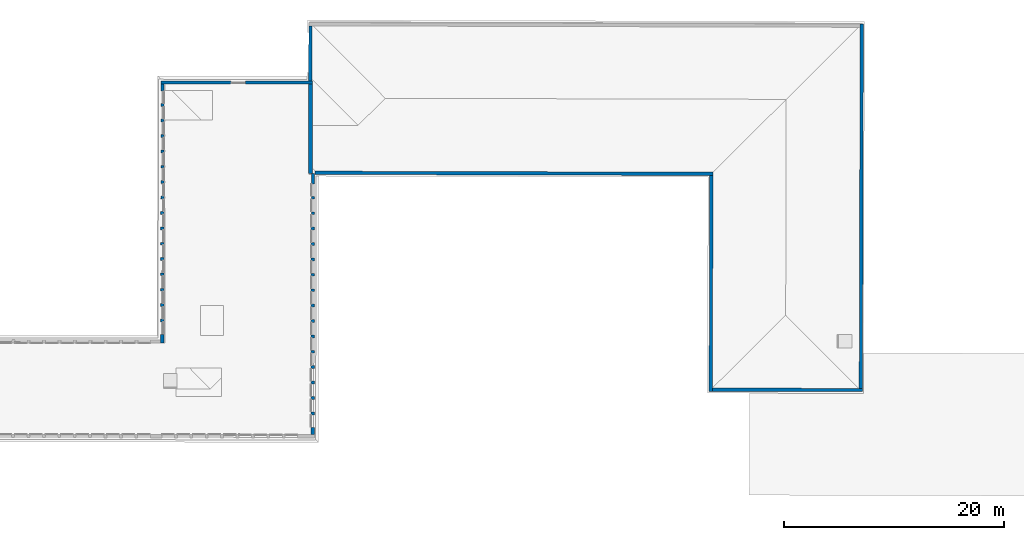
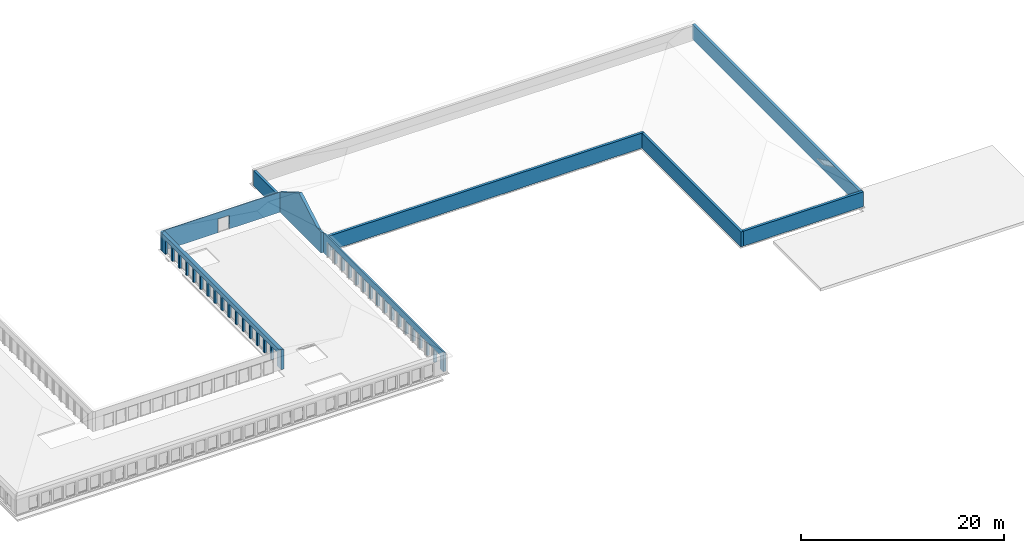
# One storey, part 23 of 26: 9 walls, 33 openings.
"""IFC2X3 building model written with IfcOpenShell, lengths in metres."""

import ifcopenshell
import ifcopenshell.guid

model = None  # the IFC model being written
_history = None  # IfcOwnerHistory: only IFC2X3 demands one
_inside = {}  # id of a spatial element -> (the spatial element, [elements in it])
_under = {}  # id of a project, library or spatial element -> (it, [spatial elements below it])
_declared = {}  # id of a project -> (the project, [libraries it declares])
_typed = {}  # id of a type object -> (the type object, [elements of that type])
_made_of = {}  # id of a material, layer set ... -> (it, [elements and type objects made of it])


def new_model(schema):
    """Start an empty IFC model of exactly this schema.

    Asked for "IFC4X3", IfcOpenShell would pick the latest addendum, in which some entities
    have other attributes; the version numbers below select the first issue.
    IFC2X3 requires an IfcOwnerHistory on every rooted entity: one is made here for all.
    """
    global model, _history
    if schema == "IFC4X3":
        model = ifcopenshell.file(schema_version=(4, 3, 0, 0))
    else:
        model = ifcopenshell.file(schema=schema)
    _inside.clear()
    _under.clear()
    _declared.clear()
    _typed.clear()
    _made_of.clear()
    _history = None
    if model.schema == "IFC2X3":
        org = make("IfcOrganization", Name="unknown")
        user = make(
            "IfcPersonAndOrganization",
            ThePerson=make("IfcPerson", FamilyName="unknown"),
            TheOrganization=org,
        )
        app = make(
            "IfcApplication",
            ApplicationDeveloper=org,
            Version="unknown",
            ApplicationFullName="unknown",
            ApplicationIdentifier="unknown",
        )
        _history = make(
            "IfcOwnerHistory",
            OwningUser=user,
            OwningApplication=app,
            ChangeAction="ADDED",
            CreationDate=0,
        )
    return model


def make(cls, **values):
    """One entity of the class cls with the attributes given. An attribute that is None is left unset."""
    return model.create_entity(
        cls, **{name: value for name, value in values.items() if value is not None}
    )


def entity(cls, *values):
    """Any entity or typed value of the class cls, its attributes in the order of the schema. None: left unset."""
    e = model.create_entity(cls)
    for i, value in enumerate(values):
        if value is not None:
            e[i] = value
    return e


def rooted(cls, **values):
    """An entity with a GlobalId (a new one), such as an element, a storey or a relation."""
    return make(cls, GlobalId=ifcopenshell.guid.new(), OwnerHistory=_history, **values)


def si_unit(unit_type, name, prefix=None):
    """IfcSIUnit, for example si_unit("LENGTHUNIT", "METRE", prefix="MILLI")."""
    return make("IfcSIUnit", UnitType=unit_type, Prefix=prefix, Name=name)


def converted_unit(unit_type, name, factor, base, dimensions=None, offset=None):
    """IfcConversionBasedUnit, such as the inch: factor (a typed value) times the base unit."""
    return make(
        "IfcConversionBasedUnit"
        if offset is None
        else "IfcConversionBasedUnitWithOffset",
        ConversionOffset=offset,
        Dimensions=None
        if dimensions is None
        else entity("IfcDimensionalExponents", *dimensions),
        UnitType=unit_type,
        Name=name,
        ConversionFactor=make(
            "IfcMeasureWithUnit", ValueComponent=factor, UnitComponent=base
        ),
    )


def derived_unit(unit_type, elements):
    """IfcDerivedUnit: a product of units, each with its exponent."""
    return make(
        "IfcDerivedUnit",
        Elements=[
            make("IfcDerivedUnitElement", Unit=unit, Exponent=power)
            for unit, power in elements
        ],
        UnitType=unit_type,
    )


def assignment(units):
    """IfcUnitAssignment: the units of a project."""
    return None if units is None else make("IfcUnitAssignment", Units=units)


def point(xyz):
    """IfcCartesianPoint."""
    return None if xyz is None else make("IfcCartesianPoint", Coordinates=xyz)


def direction(xyz):
    """IfcDirection."""
    return None if xyz is None else make("IfcDirection", DirectionRatios=xyz)


def frame(location, z_axis=None, x_axis=None):
    """IfcAxis2Placement3D, a coordinate frame: its origin and axes. An axis left out is left unset."""
    return make(
        "IfcAxis2Placement3D",
        Location=point(location),
        Axis=direction(z_axis),
        RefDirection=direction(x_axis),
    )


def frame_2d(location, x_axis=None):
    """IfcAxis2Placement2D, a coordinate frame in the plane: its origin and x axis."""
    return make(
        "IfcAxis2Placement2D", Location=point(location), RefDirection=direction(x_axis)
    )


def origin():
    """The frame at (0, 0, 0) with its axes left unset."""
    return frame((0.0, 0.0, 0.0))


def place(relative_to, where):
    """IfcLocalPlacement: puts the frame where relative to a parent placement (None: the world)."""
    return make(
        "IfcLocalPlacement", PlacementRelTo=relative_to, RelativePlacement=where
    )


def context(
    kind, dimensions, precision=None, world=None, true_north=None, identifier=None
):
    """IfcGeometricRepresentationContext, for example the 3D "Model" context."""
    return make(
        "IfcGeometricRepresentationContext",
        ContextIdentifier=identifier,
        ContextType=kind,
        CoordinateSpaceDimension=dimensions,
        Precision=precision,
        WorldCoordinateSystem=world,
        TrueNorth=true_north,
    )


def subcontext(parent, identifier, kind, view, scale=None):
    """IfcGeometricRepresentationSubContext, for example "Body" below "Model"."""
    return make(
        "IfcGeometricRepresentationSubContext",
        ContextIdentifier=identifier,
        ContextType=kind,
        ParentContext=parent,
        TargetScale=scale,
        TargetView=view,
    )


def project(units=None, contexts=None):
    """IfcProject with its units and contexts."""
    return rooted(
        "IfcProject",
        Name="project",
        RepresentationContexts=contexts,
        UnitsInContext=assignment(units),
    )


def spatial(cls, under=None, at=None, **own):
    """A site, building, storey or space (cls), placed at a placement, below another one or the project."""
    s = rooted(cls, ObjectPlacement=at, **own)
    if under is not None:
        _under.setdefault(under.id(), (under, []))[1].append(s)
    return s


def polyline(points):
    """IfcPolyline through the points."""
    return make("IfcPolyline", Points=[point(p) for p in points])


def profile(cls, at=None, kind="AREA", **sizes):
    """A parametric profile (cls). Its sizes go by their IFC names, for example OverallWidth=200.0."""
    return make(cls, ProfileType=kind, Position=at, **sizes)


def rectangle(**sizes):
    """IfcRectangleProfileDef."""
    return profile("IfcRectangleProfileDef", **sizes)


def outline(outer, holes=None, kind="AREA"):
    """IfcArbitraryClosedProfileDef: a profile drawn as a closed curve; with holes, ...WithVoids."""
    if holes is None:
        return make("IfcArbitraryClosedProfileDef", ProfileType=kind, OuterCurve=outer)
    return make(
        "IfcArbitraryProfileDefWithVoids",
        ProfileType=kind,
        OuterCurve=outer,
        InnerCurves=holes,
    )


def extrude(swept, where, along, depth):
    """IfcExtrudedAreaSolid: the profile swept, set in the frame where, extruded along a direction by depth."""
    return make(
        "IfcExtrudedAreaSolid",
        SweptArea=swept,
        Position=where,
        ExtrudedDirection=direction(along),
        Depth=depth,
    )


def clip(a, b, op="DIFFERENCE"):
    """IfcBooleanClippingResult: the solid a cut by the half space b."""
    return make(
        "IfcBooleanClippingResult", Operator=op, FirstOperand=a, SecondOperand=b
    )


def bounded_halfspace(plane, agree, where, boundary):
    """IfcPolygonalBoundedHalfSpace: a half space limited to a polygon's prism."""
    return make(
        "IfcPolygonalBoundedHalfSpace",
        BaseSurface=make("IfcPlane", Position=plane),
        AgreementFlag=agree,
        Position=where,
        PolygonalBoundary=boundary,
    )


def shape(context_of_items, identifier, shape_type, items):
    """IfcShapeRepresentation: the items that make up one representation, for example the "Body"."""
    return make(
        "IfcShapeRepresentation",
        ContextOfItems=context_of_items,
        RepresentationIdentifier=identifier,
        RepresentationType=shape_type,
        Items=items,
    )


def material(Name=None, Category=None):
    """IfcMaterial."""
    return make("IfcMaterial", Name=Name, Category=Category)


def layer(
    of_material, thickness, ventilated=None, Name=None, Category=None, Priority=None
):
    """IfcMaterialLayer: one layer of a wall or slab, of a material (None: an air gap)."""
    return make(
        "IfcMaterialLayer",
        Material=of_material,
        LayerThickness=thickness,
        IsVentilated=ventilated,
        Name=Name,
        Category=Category,
        Priority=Priority,
    )


def layer_set(layers, Name=None):
    """IfcMaterialLayerSet."""
    return make("IfcMaterialLayerSet", MaterialLayers=layers, LayerSetName=Name)


def layer_usage(for_layer_set, set_direction, sense, offset, extent=None):
    """IfcMaterialLayerSetUsage: how a layer set lies in its element."""
    return make(
        "IfcMaterialLayerSetUsage",
        ForLayerSet=for_layer_set,
        LayerSetDirection=set_direction,
        DirectionSense=sense,
        OffsetFromReferenceLine=offset,
        ReferenceExtent=extent,
    )


def made_of(thing, what):
    """Note that an element or type object is made of a material, layer set ...; save() writes the relation."""
    if what is not None:
        _made_of.setdefault(what.id(), (what, []))[1].append(thing)
    return thing


def type_object(cls, material=None, **own):
    """A type object (cls), such as IfcWallType, which elements share."""
    return made_of(rooted(cls, **own), material)


def element(
    cls,
    number,
    at=None,
    inside=None,
    cuts=None,
    type_object=None,
    material=None,
    context=None,
    identifier="Body",
    shape_type=None,
    held_by="IfcProductDefinitionShape",
    body=None,
    shapes=None,
    **own,
):
    """One element of the class cls, such as IfcWall. Its Tag is "e" and its number.

    at: its placement. inside: the storey or other place that contains it. cuts: it is an
    opening in that element (IfcRelVoidsElement). A single representation is given by context,
    identifier, shape_type and body (its items); several are given by shapes. held_by: the class
    of the entity that holds the representations. save() writes the other relations.
    """
    e = rooted(cls, Tag="e%d" % number, ObjectPlacement=at, **own)
    if body is not None:
        shapes = [shape(context, identifier, shape_type, body)]
    if shapes is not None:
        e.Representation = make(held_by, Representations=shapes)
    if inside is not None:
        _inside.setdefault(inside.id(), (inside, []))[1].append(e)
    if cuts is not None:
        rooted(
            "IfcRelVoidsElement", RelatingBuildingElement=cuts, RelatedOpeningElement=e
        )
    if type_object is not None:
        _typed.setdefault(type_object.id(), (type_object, []))[1].append(e)
    return made_of(e, material)


def aggregate(whole, parts):
    """IfcRelAggregates: a whole, such as a stair, and the parts it consists of."""
    return rooted("IfcRelAggregates", RelatingObject=whole, RelatedObjects=parts)


def save(model, path):
    """Write the relations noted so far, then the file.

    IfcRelAggregates (storeys below a building ...), IfcRelContainedInSpatialStructure (elements
    in a storey), IfcRelDefinesByType, IfcRelAssociatesMaterial and IfcRelDeclares: one each for
    every whole, place, type object, material and project.
    """
    for whole, parts in _under.values():
        aggregate(whole, parts)
    for where, things in _inside.values():
        rooted(
            "IfcRelContainedInSpatialStructure",
            RelatedElements=things,
            RelatingStructure=where,
        )
    for kind, things in _typed.values():
        rooted("IfcRelDefinesByType", RelatedObjects=things, RelatingType=kind)
    for what, things in _made_of.values():
        rooted("IfcRelAssociatesMaterial", RelatedObjects=things, RelatingMaterial=what)
    for by, libraries in _declared.values():
        rooted("IfcRelDeclares", RelatingContext=by, RelatedDefinitions=libraries)
    model.write(path)


model = new_model("IFC2X3")

# Units and contexts
model_context = context("Model", 3, precision=1e-05, world=origin(), true_north=direction((6.123233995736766e-17, 1.0)))
body_context = subcontext(model_context, "Body", "Model", "MODEL_VIEW")
ifc_project = project(units=[si_unit("LENGTHUNIT", "METRE"), si_unit("AREAUNIT", "SQUARE_METRE"), converted_unit("PLANEANGLEUNIT", "DEGREE", entity("IfcPlaneAngleMeasure", 0.017453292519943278), si_unit("PLANEANGLEUNIT", "RADIAN"), dimensions=[0, 0, 0, 0, 0, 0, 0]), derived_unit("THERMALTRANSMITTANCEUNIT", [(si_unit("MASSUNIT", "GRAM", prefix="KILO"), 1), (si_unit("THERMODYNAMICTEMPERATUREUNIT", "KELVIN"), -1), (si_unit("TIMEUNIT", "SECOND"), -3)])], contexts=[model_context])

# Site, building, storey
site_placement = place(None, frame((1253.6752467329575, 2072.143113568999, 91.49999999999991), z_axis=(0.0, 0.0, 1.0), x_axis=(0.7237211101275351, 0.6900925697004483, 0.0)))
site = spatial("IfcSite", under=ifc_project, at=site_placement, Name="Surface", CompositionType="ELEMENT")
building_placement = place(site_placement, origin())
building = spatial("IfcBuilding", under=site, at=building_placement, CompositionType="ELEMENT")
storey_placement = place(building_placement, frame((0.0, 0.0, 7.0)))
storey = spatial("IfcBuildingStorey", under=building, at=storey_placement, Name="2-R+2", CompositionType="ELEMENT", Elevation=6.999999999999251)

# Wall
ifc_material = material(Name="OMD_Béton blanc")
ifc_layer_1 = layer(ifc_material, 0.35)
ifc_layer_set_1 = layer_set([ifc_layer_1], Name="Mur de base:MUR 35")
ifc_layer_usage_1 = layer_usage(ifc_layer_set_1, "AXIS2", "NEGATIVE", 0.175)
wall_type_1 = type_object("IfcWallType", Name="Mur de base:MUR 35", PredefinedType="STANDARD", material=ifc_layer_set_1)
wall_1_placement = place(storey_placement, frame((201.2558567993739, -6.15626207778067, 0.9000000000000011), z_axis=(0.0, 0.0, 1.0), x_axis=(-0.6909838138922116, -0.7228702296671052, 0.0)))
element("IfcWallStandardCase", 1, at=wall_1_placement, inside=storey, type_object=wall_type_1, material=ifc_layer_usage_1, Name="Mur de base:MUR 35", ObjectType="Mur de base:MUR 35", context=body_context, shape_type="Clipping", body=[
    clip(clip(clip(extrude(rectangle(XDim=8.120000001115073, YDim=0.35000000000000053, at=frame_2d((4.060000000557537, -4.440892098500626e-16), x_axis=(-1.0, 0.0))), origin(), (0.0, 0.0, 1.0), 4.597880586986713), bounded_halfspace(frame((7.279929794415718, -0.17499999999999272, 2.5487266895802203), z_axis=(0.0, 0.5024164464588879, 0.8646257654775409), x_axis=(-1.0, 0.0, 0.0)), False, frame((7.279929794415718, -0.17499999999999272, 2.5487266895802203)), polyline([(0.0, 0.0), (0.8400702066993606, 0.0), (0.8400702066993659, 0.24470867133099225), (0.8400702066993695, 0.3499999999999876), (0.3527415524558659, 0.3499999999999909), (0.0, 0.0)]))), bounded_halfspace(frame((0.0, -0.17499999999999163, 2.4297746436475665), z_axis=(-0.5024164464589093, 0.0, 0.8646257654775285), x_axis=(0.0, -1.0, 0.0)), False, frame((0.0, -0.17499999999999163, 2.4297746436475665)), polyline([(0.0, 0.0), (3.730928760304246, 0.0), (3.7311681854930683, 0.3500000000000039), (0.0, 0.3499999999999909), (0.0, 0.0)]))), bounded_halfspace(frame((3.7309287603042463, -0.17500000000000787, 4.5977414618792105), z_axis=(0.4999995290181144, -0.0006862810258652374, 0.8660254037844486), x_axis=(0.0013725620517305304, 0.9999990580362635, 0.0)), False, frame((3.7309287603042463, -0.17500000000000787, 4.5977414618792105)), polyline([(0.0, 0.0), (3.549001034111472, 0.0), (3.901742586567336, 0.3500000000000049), (0.000239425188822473, 0.35000000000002), (0.0, 0.0)]))),
])

# Wall, opening
ifc_layer_2 = layer(ifc_material, 0.29999999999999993)
ifc_layer_set_2 = layer_set([ifc_layer_2], Name="Mur de base:MUR 30")
ifc_layer_usage_2 = layer_usage(ifc_layer_set_2, "AXIS2", "NEGATIVE", 0.14999999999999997)
wall_type_2 = type_object("IfcWallType", Name="Mur de base:MUR 30", PredefinedType="STANDARD", material=ifc_layer_set_2)
wall_2_placement = place(storey_placement, frame((191.51843010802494, 3.3591446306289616, 0.9000000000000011), z_axis=(0.0, 0.0, 1.0), x_axis=(0.7228702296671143, -0.6909838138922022, 0.0)))
wall_2 = element("IfcWallStandardCase", 2, at=wall_2_placement, inside=storey, type_object=wall_type_2, material=ifc_layer_usage_2, Name="Mur de base:MUR 30", ObjectType="Mur de base:MUR 30", context=body_context, shape_type="Clipping", body=[
    clip(clip(extrude(rectangle(XDim=13.788887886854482, YDim=0.29999999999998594, at=frame_2d((6.894443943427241, -4.3021142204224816e-15), x_axis=(-1.0, 0.0))), origin(), (0.0, 0.0, 1.0), 2.4297746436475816), bounded_halfspace(frame((0.0, 0.1500000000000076, 2.183631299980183), z_axis=(-0.5024164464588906, 0.0, 0.8646257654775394), x_axis=(0.0, -1.0, 0.0)), False, frame((0.0, 0.1500000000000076, 2.183631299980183)), polyline([(0.0, 0.0), (0.0, -0.3000000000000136), (0.29999999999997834, -0.300000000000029), (0.4235965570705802, -0.30000000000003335), (0.12359655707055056, 0.0), (0.0, 0.0)]))), bounded_halfspace(frame((13.788887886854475, -0.1500000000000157, 2.4297746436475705), z_axis=(0.0, 0.5024164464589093, 0.8646257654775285), x_axis=(-1.0, 0.0, 0.0)), False, frame((13.788887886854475, -0.1500000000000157, 2.4297746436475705)), polyline([(0.0, 0.0), (0.0, 0.3000000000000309), (-13.665291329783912, 0.3000000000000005), (-13.365291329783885, 0.0), (-0.3500000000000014, 0.0), (0.0, 0.0)]))),
])
opening_1_placement = place(wall_2_placement, frame((7.006940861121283, -0.9515872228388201, 0.0)))
element("IfcOpeningElement", 3, at=opening_1_placement, cuts=wall_2, Name="Mur de base:MUR 30", ObjectType="Opening", context=body_context, shape_type="SweptSolid", body=[
    extrude(rectangle(XDim=1.6499999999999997, YDim=1.2996959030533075, at=frame_2d((-1.8485213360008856e-14, 0.0), x_axis=(0.0, 1.0))), frame((0.02929692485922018, 0.649187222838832, 0.8249999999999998), z_axis=(0.0, 1.0, 0.0), x_axis=(-1.0, 0.0, 0.0)), (0.0, 0.0, 1.0), 0.6048000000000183),
])

# Wall, openings
ifc_layer_usage_3 = layer_usage(ifc_layer_set_2, "AXIS2", "NEGATIVE", 0.14999999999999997)
wall_3_placement = place(storey_placement, frame((175.24363441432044, -13.883756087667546, 0.9000000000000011), z_axis=(0.0, 0.0, 1.0), x_axis=(0.6909838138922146, 0.7228702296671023, 0.0)))
wall_3 = element("IfcWallStandardCase", 4, at=wall_3_placement, inside=storey, type_object=wall_type_2, material=ifc_layer_usage_3, Name="Mur de base:MUR 30", ObjectType="Mur de base:MUR 30", context=body_context, shape_type="Clipping", body=[
    clip(clip(extrude(rectangle(XDim=23.560000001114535, YDim=0.2999999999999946, at=frame_2d((11.780000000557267, 6.106226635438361e-16), x_axis=(-1.0, 0.0))), origin(), (0.0, 0.0, 1.0), 2.406531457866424), bounded_halfspace(frame((0.0, 0.1499999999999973, 2.406531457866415), z_axis=(0.502416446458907, 0.0, 0.8646257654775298), x_axis=(0.0, 1.0, 0.0)), False, frame((0.0, 0.1499999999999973, 2.406531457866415)), polyline([(0.0, 0.0), (0.0, -0.2999999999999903), (0.08359655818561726, -0.29999999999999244), (0.38359655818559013, 0.0), (0.2999999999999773, 0.0), (0.0, 0.0)]))), bounded_halfspace(frame((23.56000000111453, -0.1500000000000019, 2.3579551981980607), z_axis=(0.0, 0.5024164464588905, 0.8646257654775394), x_axis=(-1.0, 0.0, 0.0)), False, frame((23.56000000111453, -0.1500000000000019, 2.3579551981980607)), polyline([(0.0, 0.0), (0.0, 0.29999999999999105), (-23.176403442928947, 0.29999999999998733), (-23.476403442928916, 0.0), (0.0, 0.0)]))),
])
opening_2_placement = place(wall_3_placement, frame((21.472558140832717, 0.013633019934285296, 0.0)))
element("IfcOpeningElement", 5, at=opening_2_placement, cuts=wall_3, Name="Mur de base:MUR 30", ObjectType="Opening", context=body_context, shape_type="SweptSolid", body=[
    extrude(rectangle(XDim=1.6499999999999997, YDim=1.1399999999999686, at=frame_2d((0.0, 1.815214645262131e-14), x_axis=(1.0, 0.0))), frame((0.8720925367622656, -0.31603301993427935, 0.8249999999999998), z_axis=(0.0, 1.0, 0.0), x_axis=(0.0, 0.0, 1.0)), (0.0, 0.0, 1.0), 0.6048000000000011),
])
opening_3_placement = place(wall_3_placement, frame((20.07255945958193, 0.01363301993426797, 0.0)))
element("IfcOpeningElement", 6, at=opening_3_placement, cuts=wall_3, Name="Mur de base:MUR 30", ObjectType="Opening", context=body_context, shape_type="SweptSolid", body=[
    extrude(rectangle(XDim=1.6499999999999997, YDim=1.1399999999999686, at=frame_2d((0.0, -1.8207657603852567e-14), x_axis=(1.0, 0.0))), frame((0.8720925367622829, -0.31603301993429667, 0.8249999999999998), z_axis=(0.0, 1.0, 0.0), x_axis=(0.0, 0.0, 1.0)), (0.0, 0.0, 1.0), 0.6047999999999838),
])
opening_4_placement = place(wall_3_placement, frame((18.672560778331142, 0.013633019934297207, 0.0)))
element("IfcOpeningElement", 7, at=opening_4_placement, cuts=wall_3, Name="Mur de base:MUR 30", ObjectType="Opening", context=body_context, shape_type="SweptSolid", body=[
    extrude(rectangle(XDim=1.6499999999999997, YDim=1.1399999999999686, at=frame_2d((0.0, 1.8207657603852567e-14), x_axis=(1.0, 0.0))), frame((0.8720925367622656, -0.31603301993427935, 0.8249999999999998), z_axis=(0.0, 1.0, 0.0), x_axis=(0.0, 0.0, 1.0)), (0.0, 0.0, 1.0), 0.6048000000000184),
])
opening_5_placement = place(wall_3_placement, frame((17.27256209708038, 0.013633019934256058, 0.0)))
element("IfcOpeningElement", 8, at=opening_5_placement, cuts=wall_3, Name="Mur de base:MUR 30", ObjectType="Opening", context=body_context, shape_type="SweptSolid", body=[
    extrude(rectangle(XDim=1.6499999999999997, YDim=1.1399999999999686, at=frame_2d((0.0, -1.8207657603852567e-14), x_axis=(1.0, 0.0))), frame((0.8720925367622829, -0.31603301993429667, 0.8249999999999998), z_axis=(0.0, 1.0, 0.0), x_axis=(0.0, 0.0, 1.0)), (0.0, 0.0, 1.0), 0.6047999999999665),
])
opening_6_placement = place(wall_3_placement, frame((15.872563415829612, 0.013633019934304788, 0.0)))
element("IfcOpeningElement", 9, at=opening_6_placement, cuts=wall_3, Name="Mur de base:MUR 30", ObjectType="Opening", context=body_context, shape_type="SweptSolid", body=[
    extrude(rectangle(XDim=1.6499999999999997, YDim=1.1399999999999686, at=frame_2d((0.0, 1.8207657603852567e-14), x_axis=(1.0, 0.0))), frame((0.8720925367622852, -0.3160330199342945, 0.8249999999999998), z_axis=(0.0, 1.0, 0.0), x_axis=(0.0, 0.0, 1.0)), (0.0, 0.0, 1.0), 0.6047999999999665),
])
opening_7_placement = place(wall_3_placement, frame((14.47256473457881, 0.013633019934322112, 0.0)))
element("IfcOpeningElement", 10, at=opening_7_placement, cuts=wall_3, Name="Mur de base:MUR 30", ObjectType="Opening", context=body_context, shape_type="SweptSolid", body=[
    extrude(rectangle(XDim=1.6499999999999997, YDim=1.1399999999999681, at=frame_2d((0.0, -1.8263168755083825e-14), x_axis=(1.0, 0.0))), frame((0.8720925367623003, -0.31603301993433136, 0.8249999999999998), z_axis=(0.0, 1.0, 0.0), x_axis=(0.0, 0.0, 1.0)), (0.0, 0.0, 1.0), 0.6047999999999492),
])
opening_8_placement = place(wall_3_placement, frame((13.072566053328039, 0.013633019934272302, 0.0)))
element("IfcOpeningElement", 11, at=opening_8_placement, cuts=wall_3, Name="Mur de base:MUR 30", ObjectType="Opening", context=body_context, shape_type="SweptSolid", body=[
    extrude(rectangle(XDim=1.6499999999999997, YDim=1.139999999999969, at=frame_2d((0.0, 1.8207657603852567e-14), x_axis=(1.0, 0.0))), frame((0.872092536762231, -0.3160330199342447, 0.8249999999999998), z_axis=(0.0, 1.0, 0.0), x_axis=(0.0, 0.0, 1.0)), (0.0, 0.0, 1.0), 0.6048000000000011),
])
opening_9_placement = place(wall_3_placement, frame((11.672567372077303, 0.013633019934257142, 0.0)))
element("IfcOpeningElement", 12, at=opening_9_placement, cuts=wall_3, Name="Mur de base:MUR 30", ObjectType="Opening", context=body_context, shape_type="SweptSolid", body=[
    extrude(rectangle(XDim=1.6499999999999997, YDim=1.139999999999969, at=frame_2d((0.0, 1.8207657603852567e-14), x_axis=(1.0, 0.0))), frame((0.872092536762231, -0.3160330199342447, 0.8249999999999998), z_axis=(0.0, 1.0, 0.0), x_axis=(0.0, 0.0, 1.0)), (0.0, 0.0, 1.0), 0.6048000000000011),
])
opening_10_placement = place(wall_3_placement, frame((10.272568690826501, 0.013633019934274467, 0.0)))
element("IfcOpeningElement", 13, at=opening_10_placement, cuts=wall_3, Name="Mur de base:MUR 30", ObjectType="Opening", context=body_context, shape_type="SweptSolid", body=[
    extrude(rectangle(XDim=1.6499999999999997, YDim=1.1399999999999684, at=frame_2d((0.0, 1.865174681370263e-14), x_axis=(1.0, 0.0))), frame((0.8720925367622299, -0.3160330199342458, 0.8249999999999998), z_axis=(0.0, 1.0, 0.0), x_axis=(0.0, 0.0, 1.0)), (0.0, 0.0, 1.0), 0.6048000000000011),
])
opening_11_placement = place(wall_3_placement, frame((8.872570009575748, 0.013633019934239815, 0.0)))
element("IfcOpeningElement", 14, at=opening_11_placement, cuts=wall_3, Name="Mur de base:MUR 30", ObjectType="Opening", context=body_context, shape_type="SweptSolid", body=[
    extrude(rectangle(XDim=1.6499999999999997, YDim=1.139999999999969, at=frame_2d((0.0, 1.8207657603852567e-14), x_axis=(1.0, 0.0))), frame((0.8720925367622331, -0.31603301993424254, 0.8249999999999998), z_axis=(0.0, 1.0, 0.0), x_axis=(0.0, 0.0, 1.0)), (0.0, 0.0, 1.0), 0.6047999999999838),
])
opening_12_placement = place(wall_3_placement, frame((7.492571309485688, 0.013633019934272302, 0.0)))
element("IfcOpeningElement", 15, at=opening_12_placement, cuts=wall_3, Name="Mur de base:MUR 30", ObjectType="Opening", context=body_context, shape_type="SweptSolid", body=[
    extrude(rectangle(XDim=1.6499999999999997, YDim=1.1399999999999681, at=frame_2d((0.0, 1.7819079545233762e-14), x_axis=(1.0, 0.0))), frame((0.872092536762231, -0.3160330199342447, 0.8249999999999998), z_axis=(0.0, 1.0, 0.0), x_axis=(0.0, 0.0, 1.0)), (0.0, 0.0, 1.0), 0.6047999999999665),
])
opening_13_placement = place(wall_3_placement, frame((6.09257262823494, 0.013633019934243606, 0.0)))
element("IfcOpeningElement", 16, at=opening_13_placement, cuts=wall_3, Name="Mur de base:MUR 30", ObjectType="Opening", context=body_context, shape_type="SweptSolid", body=[
    extrude(rectangle(XDim=1.6499999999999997, YDim=1.1399999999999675, at=frame_2d((0.0, 1.7430501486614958e-14), x_axis=(1.0, 0.0))), frame((0.872092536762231, -0.3160330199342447, 0.8249999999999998), z_axis=(0.0, 1.0, 0.0), x_axis=(0.0, 0.0, 1.0)), (0.0, 0.0, 1.0), 0.6047999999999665),
])
opening_14_placement = place(wall_3_placement, frame((4.692573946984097, 0.013633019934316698, 0.0)))
element("IfcOpeningElement", 17, at=opening_14_placement, cuts=wall_3, Name="Mur de base:MUR 30", ObjectType="Opening", context=body_context, shape_type="SweptSolid", body=[
    extrude(rectangle(XDim=1.6499999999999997, YDim=1.139999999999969, at=frame_2d((0.0, 1.8207657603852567e-14), x_axis=(1.0, 0.0))), frame((0.8720925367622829, -0.31603301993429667, 0.8249999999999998), z_axis=(0.0, 1.0, 0.0), x_axis=(0.0, 0.0, 1.0)), (0.0, 0.0, 1.0), 0.6047999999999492),
])
opening_15_placement = place(wall_3_placement, frame((3.2925752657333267, 0.01363301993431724, 0.0)))
element("IfcOpeningElement", 18, at=opening_15_placement, cuts=wall_3, Name="Mur de base:MUR 30", ObjectType="Opening", context=body_context, shape_type="SweptSolid", body=[
    extrude(rectangle(XDim=1.6499999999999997, YDim=1.139999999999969, at=frame_2d((0.0, 1.8207657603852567e-14), x_axis=(1.0, 0.0))), frame((0.8720925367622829, -0.31603301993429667, 0.8249999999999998), z_axis=(0.0, 1.0, 0.0), x_axis=(0.0, 0.0, 1.0)), (0.0, 0.0, 1.0), 0.6047999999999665),
])
opening_16_placement = place(wall_3_placement, frame((1.8925765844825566, 0.013633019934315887, 0.0)))
element("IfcOpeningElement", 19, at=opening_16_placement, cuts=wall_3, Name="Mur de base:MUR 30", ObjectType="Opening", context=body_context, shape_type="SweptSolid", body=[
    extrude(rectangle(XDim=1.6499999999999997, YDim=1.139999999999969, at=frame_2d((0.0, 1.8207657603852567e-14), x_axis=(1.0, 0.0))), frame((0.8720925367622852, -0.3160330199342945, 0.8249999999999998), z_axis=(0.0, 1.0, 0.0), x_axis=(0.0, 0.0, 1.0)), (0.0, 0.0, 1.0), 0.6047999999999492),
])
opening_17_placement = place(wall_3_placement, frame((0.49257790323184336, 0.013633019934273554, 0.0)))
element("IfcOpeningElement", 20, at=opening_17_placement, cuts=wall_3, Name="Mur de base:MUR 30", ObjectType="Opening", context=body_context, shape_type="SweptSolid", body=[
    extrude(rectangle(XDim=1.6499999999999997, YDim=1.139999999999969, at=frame_2d((0.0, 1.9761969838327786e-14), x_axis=(1.0, 0.0))), frame((0.8720925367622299, -0.3160330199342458, 0.8249999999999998), z_axis=(0.0, 1.0, 0.0), x_axis=(0.0, 0.0, 1.0)), (0.0, 0.0, 1.0), 0.6047999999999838),
])

ifc_layer_usage_4 = layer_usage(ifc_layer_set_2, "AXIS2", "NEGATIVE", 0.14999999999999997)
wall_4_placement = place(storey_placement, frame((195.80388908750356, -12.177783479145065, 0.899999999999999), z_axis=(0.0, 0.0, 1.0), x_axis=(-0.6909838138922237, -0.7228702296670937, 0.0)))
wall_4 = element("IfcWallStandardCase", 21, at=wall_4_placement, inside=storey, type_object=wall_type_2, material=ifc_layer_usage_4, Name="Mur de base:MUR 30", ObjectType="Mur de base:MUR 30", context=body_context, shape_type="Clipping", body=[
    clip(extrude(rectangle(XDim=23.74000000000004, YDim=0.2999999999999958, at=frame_2d((11.870000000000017, 2.636779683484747e-16), x_axis=(1.0, 0.0))), origin(), (0.0, 0.0, 1.0), 2.4065314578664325), bounded_halfspace(frame((0.0, -0.14999999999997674, 2.406531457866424), z_axis=(0.0, 0.5024164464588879, 0.8646257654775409), x_axis=(-1.0, 0.0, 0.0)), False, frame((0.0, -0.14999999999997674, 2.406531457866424)), polyline([(0.0, 0.0), (23.740000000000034, 0.0), (23.74000000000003, 0.2999999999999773), (0.0, 0.2999999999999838), (0.0, 0.10529132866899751), (0.0, 0.0)]))),
])
opening_18_placement = place(wall_4_placement, frame((2.3766354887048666, -0.013633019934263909, 0.0)))
element("IfcOpeningElement", 22, at=opening_18_placement, cuts=wall_4, Name="Mur de base:MUR 30", ObjectType="Opening", context=body_context, shape_type="SweptSolid", body=[
    extrude(rectangle(XDim=1.6499999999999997, YDim=1.139999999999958, at=frame_2d((-1.7486012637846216e-14, 0.0), x_axis=(0.0, 1.0))), frame((-0.8720925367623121, -0.2887669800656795, 0.8249999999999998), z_axis=(0.0, 1.0, 0.0), x_axis=(-1.0, 0.0, 0.0)), (0.0, 0.0, 1.0), 0.6047999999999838),
])
opening_19_placement = place(wall_4_placement, frame((3.776634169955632, -0.013633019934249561, 0.0)))
element("IfcOpeningElement", 23, at=opening_19_placement, cuts=wall_4, Name="Mur de base:MUR 30", ObjectType="Opening", context=body_context, shape_type="SweptSolid", body=[
    extrude(rectangle(XDim=1.6499999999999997, YDim=1.139999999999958, at=frame_2d((1.7486012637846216e-14, 0.0), x_axis=(0.0, 1.0))), frame((-0.8720925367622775, -0.28876698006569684, 0.8249999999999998), z_axis=(0.0, 1.0, 0.0), x_axis=(-1.0, 0.0, 0.0)), (0.0, 0.0, 1.0), 0.6047999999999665),
])
opening_20_placement = place(wall_4_placement, frame((5.176632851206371, -0.013633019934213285, 0.0)))
element("IfcOpeningElement", 24, at=opening_20_placement, cuts=wall_4, Name="Mur de base:MUR 30", ObjectType="Opening", context=body_context, shape_type="SweptSolid", body=[
    extrude(rectangle(XDim=1.6499999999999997, YDim=1.139999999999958, at=frame_2d((1.7486012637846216e-14, 0.0), x_axis=(0.0, 1.0))), frame((-0.8720925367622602, -0.2887669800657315, 0.8249999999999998), z_axis=(0.0, 1.0, 0.0), x_axis=(-1.0, 0.0, 0.0)), (0.0, 0.0, 1.0), 0.6048000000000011),
])
opening_21_placement = place(wall_4_placement, frame((6.576631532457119, -0.013633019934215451, 0.0)))
element("IfcOpeningElement", 25, at=opening_21_placement, cuts=wall_4, Name="Mur de base:MUR 30", ObjectType="Opening", context=body_context, shape_type="SweptSolid", body=[
    extrude(rectangle(XDim=1.6499999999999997, YDim=1.139999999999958, at=frame_2d((1.7486012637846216e-14, 0.0), x_axis=(0.0, 1.0))), frame((-0.8720925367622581, -0.2887669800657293, 0.8249999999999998), z_axis=(0.0, 1.0, 0.0), x_axis=(-1.0, 0.0, 0.0)), (0.0, 0.0, 1.0), 0.6047999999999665),
])
opening_22_placement = place(wall_4_placement, frame((7.976657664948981, -0.01363301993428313, 0.0)))
element("IfcOpeningElement", 26, at=opening_22_placement, cuts=wall_4, Name="Mur de base:MUR 30", ObjectType="Opening", context=body_context, shape_type="SweptSolid", body=[
    extrude(rectangle(XDim=1.6499999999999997, YDim=1.1399999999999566, at=frame_2d((1.9761969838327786e-14, 0.0), x_axis=(0.0, 1.0))), frame((-0.8720925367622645, -0.28876698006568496, 0.8249999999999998), z_axis=(0.0, 1.0, 0.0), x_axis=(-1.0, 0.0, 0.0)), (0.0, 0.0, 1.0), 0.6047999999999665),
])
opening_23_placement = place(wall_4_placement, frame((9.376656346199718, -0.013633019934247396, 0.0)))
element("IfcOpeningElement", 27, at=opening_23_placement, cuts=wall_4, Name="Mur de base:MUR 30", ObjectType="Opening", context=body_context, shape_type="SweptSolid", body=[
    extrude(rectangle(XDim=1.6499999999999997, YDim=1.139999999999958, at=frame_2d((1.7486012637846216e-14, 0.0), x_axis=(0.0, 1.0))), frame((-0.8720925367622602, -0.2887669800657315, 0.8249999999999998), z_axis=(0.0, 1.0, 0.0), x_axis=(-1.0, 0.0, 0.0)), (0.0, 0.0, 1.0), 0.6048000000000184),
])
opening_24_placement = place(wall_4_placement, frame((10.77665502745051, -0.013633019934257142, 0.0)))
element("IfcOpeningElement", 28, at=opening_24_placement, cuts=wall_4, Name="Mur de base:MUR 30", ObjectType="Opening", context=body_context, shape_type="SweptSolid", body=[
    extrude(rectangle(XDim=1.6499999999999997, YDim=1.1399999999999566, at=frame_2d((-1.8263168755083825e-14, 0.0), x_axis=(0.0, 1.0))), frame((-0.8720925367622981, -0.2887669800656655, 0.8249999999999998), z_axis=(0.0, 1.0, 0.0), x_axis=(-1.0, 0.0, 0.0)), (0.0, 0.0, 1.0), 0.6047999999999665),
])
opening_25_placement = place(wall_4_placement, frame((12.176653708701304, -0.013633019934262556, 0.0)))
element("IfcOpeningElement", 29, at=opening_25_placement, cuts=wall_4, Name="Mur de base:MUR 30", ObjectType="Opening", context=body_context, shape_type="SweptSolid", body=[
    extrude(rectangle(XDim=1.6499999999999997, YDim=1.1399999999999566, at=frame_2d((-1.6653345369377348e-14, 0.0), x_axis=(0.0, 1.0))), frame((-0.8720925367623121, -0.2887669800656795, 0.8249999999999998), z_axis=(0.0, 1.0, 0.0), x_axis=(-1.0, 0.0, 0.0)), (0.0, 0.0, 1.0), 0.6047999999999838),
])
opening_26_placement = place(wall_4_placement, frame((13.576652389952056, -0.013633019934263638, 0.0)))
element("IfcOpeningElement", 30, at=opening_26_placement, cuts=wall_4, Name="Mur de base:MUR 30", ObjectType="Opening", context=body_context, shape_type="SweptSolid", body=[
    extrude(rectangle(XDim=1.6499999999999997, YDim=1.1399999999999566, at=frame_2d((1.9761969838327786e-14, 0.0), x_axis=(0.0, 1.0))), frame((-0.8720925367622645, -0.28876698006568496, 0.8249999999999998), z_axis=(0.0, 1.0, 0.0), x_axis=(-1.0, 0.0, 0.0)), (0.0, 0.0, 1.0), 0.6047999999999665),
])
opening_27_placement = place(wall_4_placement, frame((14.97665107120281, -0.01363301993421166, 0.0)))
element("IfcOpeningElement", 31, at=opening_27_placement, cuts=wall_4, Name="Mur de base:MUR 30", ObjectType="Opening", context=body_context, shape_type="SweptSolid", body=[
    extrude(rectangle(XDim=1.6499999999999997, YDim=1.1399999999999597, at=frame_2d((1.8263168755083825e-14, 0.0), x_axis=(0.0, 1.0))), frame((-0.8720925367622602, -0.2887669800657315, 0.8249999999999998), z_axis=(0.0, 1.0, 0.0), x_axis=(-1.0, 0.0, 0.0)), (0.0, 0.0, 1.0), 0.6048000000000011),
])
opening_28_placement = place(wall_4_placement, frame((16.37304371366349, -0.013633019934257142, 0.0)))
element("IfcOpeningElement", 32, at=opening_28_placement, cuts=wall_4, Name="Mur de base:MUR 30", ObjectType="Opening", context=body_context, shape_type="SweptSolid", body=[
    extrude(rectangle(XDim=1.6499999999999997, YDim=1.1399999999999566, at=frame_2d((-1.9761969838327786e-14, 0.0), x_axis=(0.0, 1.0))), frame((-0.8720925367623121, -0.2887669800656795, 0.8249999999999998), z_axis=(0.0, 1.0, 0.0), x_axis=(-1.0, 0.0, 0.0)), (0.0, 0.0, 1.0), 0.6047999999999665),
])
opening_29_placement = place(wall_4_placement, frame((17.77303553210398, -0.01363301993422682, 0.0)))
element("IfcOpeningElement", 33, at=opening_29_placement, cuts=wall_4, Name="Mur de base:MUR 30", ObjectType="Opening", context=body_context, shape_type="SweptSolid", body=[
    extrude(rectangle(XDim=1.6499999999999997, YDim=1.1399999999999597, at=frame_2d((1.8263168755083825e-14, 0.0), x_axis=(0.0, 1.0))), frame((-0.8720925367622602, -0.2887669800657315, 0.8249999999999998), z_axis=(0.0, 1.0, 0.0), x_axis=(-1.0, 0.0, 0.0)), (0.0, 0.0, 1.0), 0.6047999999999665),
])
opening_30_placement = place(wall_4_placement, frame((19.173027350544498, -0.013633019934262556, 0.0)))
element("IfcOpeningElement", 34, at=opening_30_placement, cuts=wall_4, Name="Mur de base:MUR 30", ObjectType="Opening", context=body_context, shape_type="SweptSolid", body=[
    extrude(rectangle(XDim=1.6499999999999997, YDim=1.1399999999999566, at=frame_2d((1.9761969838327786e-14, 0.0), x_axis=(0.0, 1.0))), frame((-0.8720925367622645, -0.28876698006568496, 0.8249999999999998), z_axis=(0.0, 1.0, 0.0), x_axis=(-1.0, 0.0, 0.0)), (0.0, 0.0, 1.0), 0.6047999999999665),
])
opening_31_placement = place(wall_4_placement, frame((20.573032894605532, -0.013633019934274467, 0.0)))
element("IfcOpeningElement", 35, at=opening_31_placement, cuts=wall_4, Name="Mur de base:MUR 30", ObjectType="Opening", context=body_context, shape_type="SweptSolid", body=[
    extrude(rectangle(XDim=1.6499999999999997, YDim=1.1399999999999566, at=frame_2d((-1.9761969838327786e-14, 0.0), x_axis=(0.0, 1.0))), frame((-0.8720925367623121, -0.2887669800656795, 0.8249999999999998), z_axis=(0.0, 1.0, 0.0), x_axis=(-1.0, 0.0, 0.0)), (0.0, 0.0, 1.0), 0.6047999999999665),
])
opening_32_placement = place(wall_4_placement, frame((21.973031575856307, -0.013633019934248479, 0.0)))
element("IfcOpeningElement", 36, at=opening_32_placement, cuts=wall_4, Name="Mur de base:MUR 30", ObjectType="Opening", context=body_context, shape_type="SweptSolid", body=[
    extrude(rectangle(XDim=1.6499999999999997, YDim=1.1399999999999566, at=frame_2d((1.9761969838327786e-14, 0.0), x_axis=(0.0, 1.0))), frame((-0.8720925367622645, -0.28876698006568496, 0.8249999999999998), z_axis=(0.0, 1.0, 0.0), x_axis=(-1.0, 0.0, 0.0)), (0.0, 0.0, 1.0), 0.6047999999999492),
])
opening_33_placement = place(wall_4_placement, frame((23.373038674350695, -0.01363301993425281, 0.0)))
element("IfcOpeningElement", 37, at=opening_33_placement, cuts=wall_4, Name="Mur de base:MUR 30", ObjectType="Opening", context=body_context, shape_type="SweptSolid", body=[
    extrude(rectangle(XDim=1.6499999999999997, YDim=1.1399999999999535, at=frame_2d((-1.8207657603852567e-14, 0.0), x_axis=(0.0, 1.0))), frame((-0.8720925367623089, -0.2887669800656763, 0.8249999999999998), z_axis=(0.0, 1.0, 0.0), x_axis=(-1.0, 0.0, 0.0)), (0.0, 0.0, 1.0), 0.6047999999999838),
])

# Walls
ifc_layer_usage_5 = layer_usage(ifc_layer_set_2, "AXIS2", "POSITIVE", -0.14999999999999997)
wall_5_placement = place(storey_placement, frame((195.99839974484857, -12.26341925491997, 0.899999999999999), z_axis=(0.0, 0.0, 1.0), x_axis=(0.7218509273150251, -0.6920485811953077, 0.0)))
element("IfcWallStandardCase", 38, at=wall_5_placement, inside=storey, type_object=wall_type_2, material=ifc_layer_usage_5, Name="Mur de base:MUR 30", ObjectType="Mur de base:MUR 30", context=body_context, shape_type="Clipping", body=[
    clip(extrude(outline(polyline([(0.0, -0.14999999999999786), (35.86785180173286, -0.14999999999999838), (36.16785180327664, -0.14999999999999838), (36.16782136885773, 0.1499999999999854), (0.0, 0.14999999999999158), (0.0, -0.14999999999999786)])), origin(), (0.0, 0.0, 1.0), 1.8000000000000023), bounded_halfspace(frame((0.0, -0.15000000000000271, 1.8000000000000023), z_axis=(0.0, 0.0, -1.0), x_axis=(0.0012378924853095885, -0.9999992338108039, 0.0)), True, frame((0.0, -0.15000000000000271, 1.8000000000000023)), polyline([(0.0, 0.0), (35.867851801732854, 0.0), (36.16785180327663, 0.0), (36.1678213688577, 0.2999999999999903), (0.0, 0.29999999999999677), (0.0, 0.0)]))),
])
ifc_layer_usage_6 = layer_usage(ifc_layer_set_2, "AXIS2", "POSITIVE", -0.14999999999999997)
wall_6_placement = place(storey_placement, frame((221.8941227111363, -37.29778914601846, 0.899999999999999), z_axis=(0.0, 0.0, 1.0), x_axis=(-0.6919753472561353, -0.7219211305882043, 0.0)))
element("IfcWallStandardCase", 39, at=wall_6_placement, inside=storey, type_object=wall_type_2, material=ifc_layer_usage_6, Name="Mur de base:MUR 30", ObjectType="Mur de base:MUR 30", context=body_context, shape_type="Clipping", body=[
    clip(extrude(outline(polyline([(0.0, -0.15000000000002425), (19.62003043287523, -0.1500000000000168), (19.62003043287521, 0.14999999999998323), (19.320030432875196, 0.14999999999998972), (3.04344188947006e-05, 0.1499999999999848), (0.0, -0.15000000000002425)])), origin(), (0.0, 0.0, 1.0), 1.8000000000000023), bounded_halfspace(frame((0.0, -0.1500000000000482, 1.8000000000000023), z_axis=(0.0, 0.0, -1.0), x_axis=(0.9999993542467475, 0.0011364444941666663, 0.0)), True, frame((0.0, -0.1500000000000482, 1.8000000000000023)), polyline([(0.0, 0.0), (19.620030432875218, 0.0), (19.620030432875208, 0.3000000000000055), (19.320030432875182, 0.3000000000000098), (3.043441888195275e-05, 0.30000000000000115), (0.0, 0.0)]))),
])
ifc_layer_usage_7 = layer_usage(ifc_layer_set_2, "AXIS2", "POSITIVE", -0.14999999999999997)
wall_7_placement = place(storey_placement, frame((208.5296298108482, -51.45741183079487, 0.899999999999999), z_axis=(0.0, 0.0, 1.0), x_axis=(0.7219211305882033, -0.6919753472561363, 0.0)))
element("IfcWallStandardCase", 40, at=wall_7_placement, inside=storey, type_object=wall_type_2, material=ifc_layer_usage_7, Name="Mur de base:MUR 30", ObjectType="Mur de base:MUR 30", context=body_context, shape_type="Clipping", body=[
    clip(extrude(rectangle(XDim=13.63999999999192, YDim=0.29999999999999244, at=frame_2d((6.81999999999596, -3.5110803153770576e-15), x_axis=(-1.0, 0.0))), origin(), (0.0, 0.0, 1.0), 1.8000000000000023), bounded_halfspace(frame((0.0, -0.1500000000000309, 1.8000000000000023), z_axis=(0.0, 0.0, -1.0), x_axis=(0.0011364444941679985, -0.9999993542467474, 0.0)), True, frame((0.0, -0.1500000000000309, 1.8000000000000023)), polyline([(0.0, 0.0), (13.639999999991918, 0.0), (13.639999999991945, 0.30000000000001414), (13.339999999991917, 0.3000000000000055), (0.0, 0.3000000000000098), (0.0, 0.0)]))),
])
ifc_layer_usage_8 = layer_usage(ifc_layer_set_2, "AXIS2", "POSITIVE", -0.14999999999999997)
wall_8_placement = place(storey_placement, frame((218.37214216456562, -60.683871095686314, 0.899999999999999), z_axis=(0.0, 0.0, 1.0), x_axis=(0.6919753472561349, 0.7219211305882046, 0.0)))
element("IfcWallStandardCase", 41, at=wall_8_placement, inside=storey, type_object=wall_type_2, material=ifc_layer_usage_8, Name="Mur de base:MUR 30", ObjectType="Mur de base:MUR 30", context=body_context, shape_type="Clipping", body=[
    clip(extrude(rectangle(XDim=33.124999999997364, YDim=0.2999999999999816, at=frame_2d((16.562499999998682, 1.915134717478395e-15), x_axis=(-1.0, 0.0))), origin(), (0.0, 0.0, 1.0), 1.8000000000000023), bounded_halfspace(frame((0.0, -0.1500000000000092, 1.8000000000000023), z_axis=(0.0, 0.0, -1.0), x_axis=(-0.9999993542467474, -0.0011364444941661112, 0.0)), True, frame((0.0, -0.1500000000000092, 1.8000000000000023)), polyline([(0.0, 0.0), (33.1249999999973, 0.0), (33.12499999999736, 0.2999999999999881), (32.82499999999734, 0.30000000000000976), (0.0, 0.3000000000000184), (0.0, 0.0)]))),
])
ifc_layer_usage_9 = layer_usage(ifc_layer_set_2, "AXIS2", "POSITIVE", -0.14999999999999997)
wall_9_placement = place(storey_placement, frame((204.90354587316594, -2.3050055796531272, 0.899999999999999), z_axis=(0.0, 0.0, 1.0), x_axis=(-0.6919753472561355, -0.7219211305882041, 0.0)))
element("IfcWallStandardCase", 42, at=wall_9_placement, inside=storey, type_object=wall_type_2, material=ifc_layer_usage_9, Name="Mur de base:MUR 30", ObjectType="Mur de base:MUR 30", context=body_context, shape_type="Clipping", body=[
    clip(extrude(outline(polyline([(0.0, -0.15000000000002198), (0.609999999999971, -0.15000000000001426), (4.220000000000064, -0.15000000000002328), (5.004663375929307, -0.1500000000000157), (5.004251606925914, 0.1499999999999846), (0.0, 0.14999999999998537), (0.0, -0.15000000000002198)])), origin(), (0.0, 0.0, 1.0), 1.8000000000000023), bounded_halfspace(frame((0.0, -0.15000000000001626, 1.8000000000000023), z_axis=(0.0, 0.0, -1.0), x_axis=(0.9999993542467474, 0.0011364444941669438, 0.0)), True, frame((0.0, -0.15000000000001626, 1.8000000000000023)), polyline([(0.0, 0.0), (0.6099999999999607, 0.0), (4.220000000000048, 0.0), (5.0046633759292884, 0.0), (5.004251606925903, 0.3000000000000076), (0.0, 0.30000000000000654), (0.0, 0.0)]))),
])

save(model, "model.ifc")
